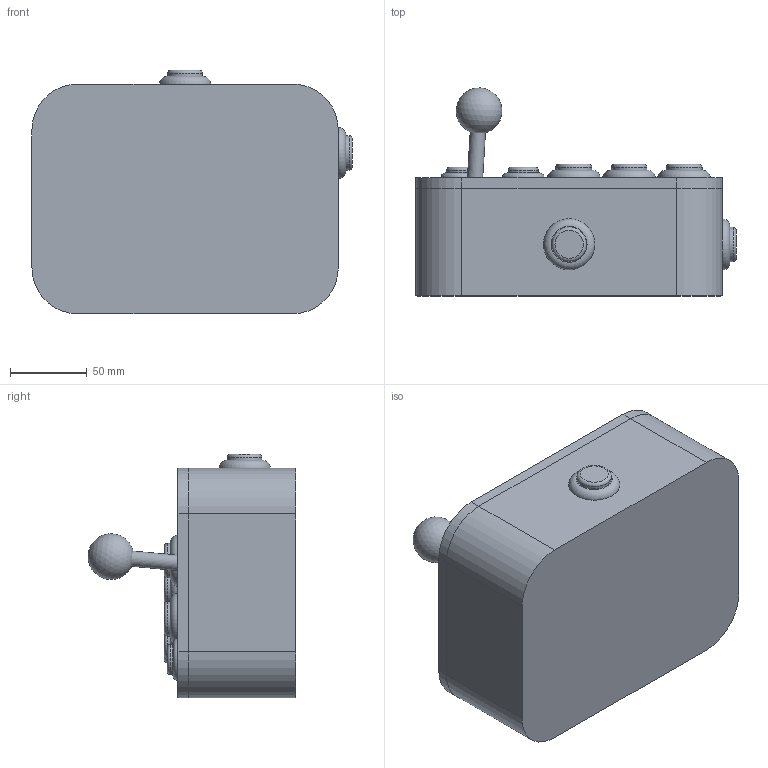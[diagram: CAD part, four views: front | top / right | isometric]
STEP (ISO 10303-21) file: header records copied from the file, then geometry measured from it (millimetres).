
FILE_DESCRIPTION(/* description */ (''),/* implementation_level */ '2;1');
FILE_NAME(/* name */ 'C:/Users/smnoh/Google Drive/Documents/Upper Peninsula Plastics/Thingiverse/Joystick Controller/Player 2 Joystick Controller.step',/* time_stamp */ '2018-01-26T20:10:55-06:00',/* author */ ('smnoha@mtu.edu'),/* organization */ (''),/* preprocessor_version */ 'ST-DEVELOPER v16.13',/* originating_system */ 'Autodesk Translation Framework v6.5.0.72',/* authorisation */ '');
FILE_SCHEMA (('AUTOMOTIVE_DESIGN { 1 0 10303 214 3 1 1 }'));
Length unit declared in the file: millimetre
Products named in the file (18): Joystick Controller; Case Top; Case Bottom; 30mm Button v1; Small Button v1; Zero Delay PCB v1; Joystick v1; SANWA_JOYSTICK_3; SSANWA_JOYSTICK_6; SANWA_JOYSTICK_2; SANWA_JOYSTICK_5; GT-Y; SANWA_JOYSTICK_0; BALL; DUSTER; E; M4x8 v1; M3x6 v1
Assembly tree (31 placements, depth 3):
  Joystick Controller
    Case Top
    Case Bottom
    30mm Button v1  x8
    Small Button v1  x2
    Zero Delay PCB v1
    Joystick v1
      SANWA_JOYSTICK_3
      SSANWA_JOYSTICK_6
      SANWA_JOYSTICK_2
      SANWA_JOYSTICK_5
      GT-Y
      SANWA_JOYSTICK_0
      BALL
      DUSTER
      E
    M4x8 v1  x4
    M3x6 v1  x4
Bounding box: 209 x 135.71 x 159 mm (x, y, z)
Volume: 666517.7 mm3; surface area: 343690.5 mm2
Topology: 30 solids, 34 shells, 1323 faces, 3370 edges, 2220 vertices
Faces by surface type: plane 632, cylinder 515, cone 73, torus 60, sphere 23, bspline 20
Full cylindrical faces by diameter (mm): 0.648 x13, 2.35 x44, 2.592 x16, 2.8 x4, 3 x50, 3.091 x40, 4 x44, 5.5 x10, 6 x4, 7 x5, 7.2 x4, 8 x6, 10 x3, 15 x1, 19.7 x2, 21 x1, 21.755 x2, 22.5 x8, 23.755 x2, 24 x2, 25 x8, 25.92 x1, 27.822 x8, 28 x8, 40 x1
Entity records: 35104 total; most frequent: CARTESIAN_POINT 10096, DIRECTION 5195, ORIENTED_EDGE 5006, EDGE_CURVE 2503, AXIS2_PLACEMENT_3D 1831, VERTEX_POINT 1654, LINE 1533, VECTOR 1533
